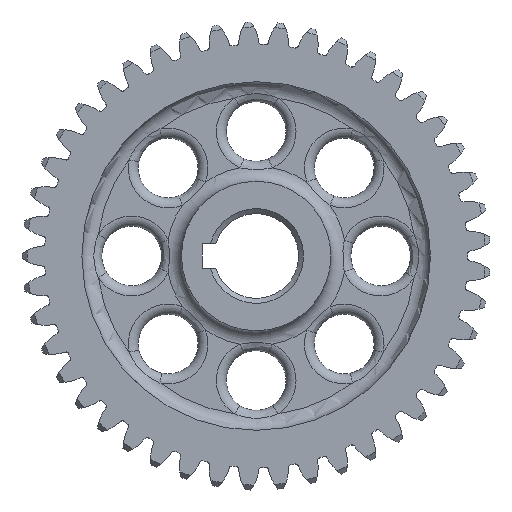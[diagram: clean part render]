
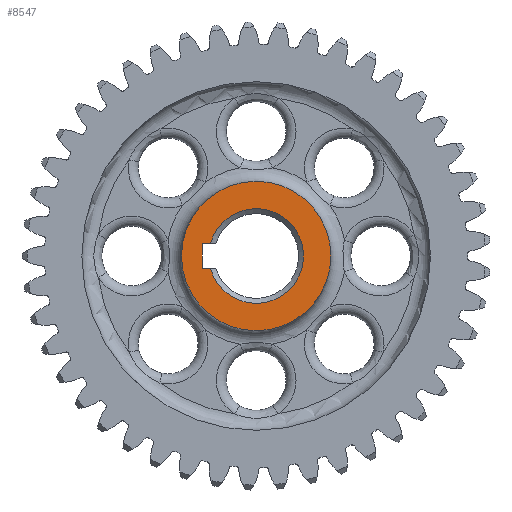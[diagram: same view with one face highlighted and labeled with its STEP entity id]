
A CAD part, left-side view. The second image highlights one B-rep face of the part: STEP entity #8547.
In plain terms, the highlighted planar face has unit normal (-1, 0, 0).
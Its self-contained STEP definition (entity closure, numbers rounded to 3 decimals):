
#17=FACE_BOUND('',#2216,.T.);
#123=LINE('',#14312,#415);
#127=LINE('',#14329,#419);
#131=LINE('',#14344,#423);
#415=VECTOR('',#10342,10.);
#419=VECTOR('',#10348,10.);
#423=VECTOR('',#10354,10.);
#1003=PLANE('',#9828);
#1747=FACE_OUTER_BOUND('',#2215,.T.);
#2215=EDGE_LOOP('',(#7763));
#2216=EDGE_LOOP('',(#7764,#7765,#7766,#7767));
#2410=CIRCLE('',#8827,9.5);
#3045=CIRCLE('',#9829,15.);
#3203=VERTEX_POINT('',#14310);
#3204=VERTEX_POINT('',#14311);
#3209=VERTEX_POINT('',#14327);
#3210=VERTEX_POINT('',#14328);
#3937=VERTEX_POINT('',#17064);
#4203=EDGE_CURVE('',#3203,#3204,#123,.T.);
#4209=EDGE_CURVE('',#3209,#3210,#127,.T.);
#4215=EDGE_CURVE('',#3210,#3203,#131,.T.);
#4218=EDGE_CURVE('',#3204,#3209,#2410,.T.);
#5305=EDGE_CURVE('',#3937,#3937,#3045,.T.);
#7763=ORIENTED_EDGE('',*,*,#5305,.F.);
#7764=ORIENTED_EDGE('',*,*,#4203,.T.);
#7765=ORIENTED_EDGE('',*,*,#4218,.T.);
#7766=ORIENTED_EDGE('',*,*,#4209,.T.);
#7767=ORIENTED_EDGE('',*,*,#4215,.T.);
#8547=ADVANCED_FACE('',(#1747,#17),#1003,.T.);
#8827=AXIS2_PLACEMENT_3D('',#14348,#10360,#10361);
#9828=AXIS2_PLACEMENT_3D('',#17063,#12634,#12635);
#9829=AXIS2_PLACEMENT_3D('',#17065,#12636,#12637);
#10342=DIRECTION('',(0.,-1.,0.));
#10348=DIRECTION('',(0.,1.,0.));
#10354=DIRECTION('',(0.,0.,1.));
#10360=DIRECTION('center_axis',(1.,0.,0.));
#10361=DIRECTION('ref_axis',(0.,0.,-1.));
#12634=DIRECTION('center_axis',(-1.,0.,0.));
#12635=DIRECTION('ref_axis',(0.,0.,1.));
#12636=DIRECTION('center_axis',(1.,0.,0.));
#12637=DIRECTION('ref_axis',(0.,0.,-1.));
#14310=CARTESIAN_POINT('',(-10.,10.8,2.5));
#14311=CARTESIAN_POINT('',(-10.,9.165,2.5));
#14312=CARTESIAN_POINT('',(-10.,11.562,2.5));
#14327=CARTESIAN_POINT('',(-10.,9.165,-2.5));
#14328=CARTESIAN_POINT('',(-10.,10.8,-2.5));
#14329=CARTESIAN_POINT('',(-10.,12.9,-2.5));
#14344=CARTESIAN_POINT('',(-10.,10.8,1.25));
#14348=CARTESIAN_POINT('Origin',(-10.,0.,0.));
#17063=CARTESIAN_POINT('Origin',(-10.,15.,0.));
#17064=CARTESIAN_POINT('',(-10.,-15.,0.));
#17065=CARTESIAN_POINT('Origin',(-10.,0.,0.));
